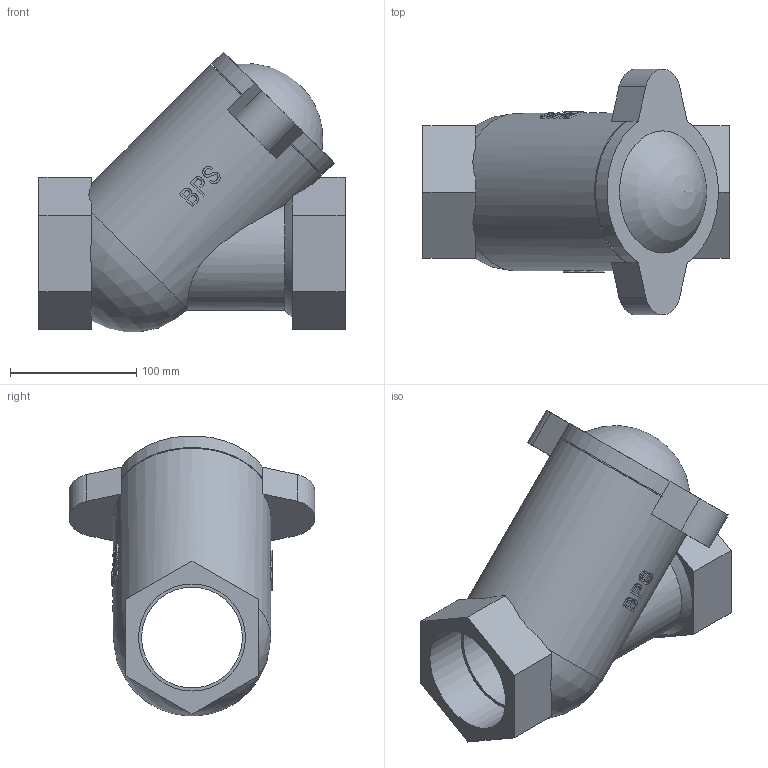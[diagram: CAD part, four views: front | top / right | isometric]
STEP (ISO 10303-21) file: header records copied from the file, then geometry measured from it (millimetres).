
FILE_DESCRIPTION( ( 'Unknown' ), '1' );
FILE_NAME( 'J:/Muud/ROOTSI BPS 3D vidinad/Kuuliga tagasiloogiklapid/STEP formaat/BPS 6540080 ball check valve DN80.stp', 'Unknown', ( 'Unknown' ), ( 'Unknown' ), 'PSStep 10.1', 'Unknown', ' ' );
FILE_SCHEMA( ( 'AUTOMOTIVE_DESIGN { 1 0 10303 214 1 1 1 1 }' ) );
Length unit declared in the file: millimetre
Products named in the file (1): 1
Bounding box: 243 x 194.86 x 222.01 mm (x, y, z)
Volume: 2371757.4 mm3; surface area: 215631.2 mm2
Topology: 1 solids, 1 shells, 178 faces, 452 edges, 299 vertices
Faces by surface type: plane 96, bspline 44, cylinder 35, sphere 2, cone 1
Full cylindrical faces by diameter (mm): 80 x1, 84.926 x2, 107 x1, 125 x1
Entity records: 15783 total; most frequent: CARTESIAN_POINT 10821, ORIENTED_EDGE 876, EDGE_CURVE 438, DIRECTION 432, B_SPLINE_CURVE_WITH_KNOTS 324, VERTEX_POINT 295, EDGE_LOOP 217, FACE_OUTER_BOUND 187
